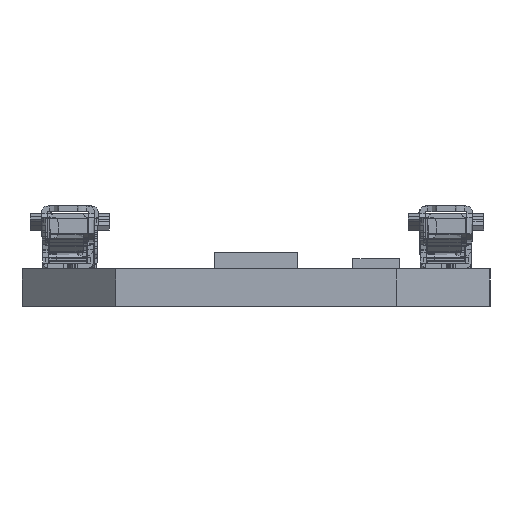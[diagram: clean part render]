
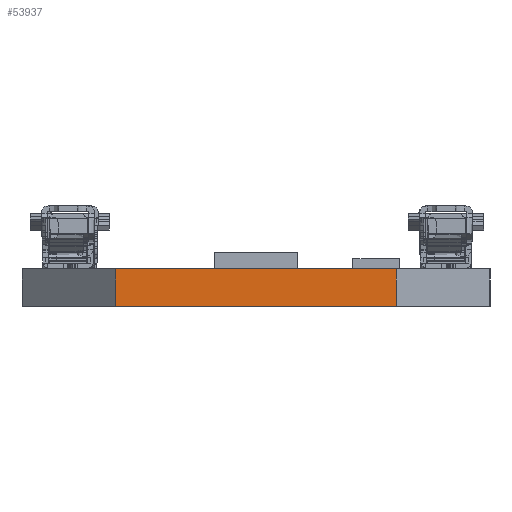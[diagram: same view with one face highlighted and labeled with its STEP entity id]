
A CAD part, left-side view. The second image highlights one B-rep face of the part: STEP entity #53937.
In plain terms, the highlighted planar face has unit normal (-1, 0, 0).
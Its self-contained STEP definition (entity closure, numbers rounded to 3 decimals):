
#53912 = VERTEX_POINT('',#53913);
#53913 = CARTESIAN_POINT('',(0.,16.,0.));
#53919 = EDGE_CURVE('',#53920,#53912,#53922,.T.);
#53920 = VERTEX_POINT('',#53921);
#53921 = CARTESIAN_POINT('',(0.,16.,-1.6));
#53922 = LINE('',#53923,#53924);
#53923 = CARTESIAN_POINT('',(0.,16.,-1.6));
#53924 = VECTOR('',#53925,1.);
#53925 = DIRECTION('',(0.,0.,1.));
#53937 = ADVANCED_FACE('',(#53938),#53963,.F.);
#53938 = FACE_BOUND('',#53939,.F.);
#53939 = EDGE_LOOP('',(#53940,#53941,#53949,#53957));
#53940 = ORIENTED_EDGE('',*,*,#53919,.T.);
#53941 = ORIENTED_EDGE('',*,*,#53942,.T.);
#53942 = EDGE_CURVE('',#53912,#53943,#53945,.T.);
#53943 = VERTEX_POINT('',#53944);
#53944 = CARTESIAN_POINT('',(0.,4.,0.));
#53945 = LINE('',#53946,#53947);
#53946 = CARTESIAN_POINT('',(0.,16.,0.));
#53947 = VECTOR('',#53948,1.);
#53948 = DIRECTION('',(0.,-1.,0.));
#53949 = ORIENTED_EDGE('',*,*,#53950,.F.);
#53950 = EDGE_CURVE('',#53951,#53943,#53953,.T.);
#53951 = VERTEX_POINT('',#53952);
#53952 = CARTESIAN_POINT('',(0.,4.,-1.6));
#53953 = LINE('',#53954,#53955);
#53954 = CARTESIAN_POINT('',(0.,4.,-1.6));
#53955 = VECTOR('',#53956,1.);
#53956 = DIRECTION('',(0.,0.,1.));
#53957 = ORIENTED_EDGE('',*,*,#53958,.F.);
#53958 = EDGE_CURVE('',#53920,#53951,#53959,.T.);
#53959 = LINE('',#53960,#53961);
#53960 = CARTESIAN_POINT('',(0.,16.,-1.6));
#53961 = VECTOR('',#53962,1.);
#53962 = DIRECTION('',(0.,-1.,0.));
#53963 = PLANE('',#53964);
#53964 = AXIS2_PLACEMENT_3D('',#53965,#53966,#53967);
#53965 = CARTESIAN_POINT('',(0.,16.,-1.6));
#53966 = DIRECTION('',(1.,0.,0.));
#53967 = DIRECTION('',(0.,-1.,0.));
